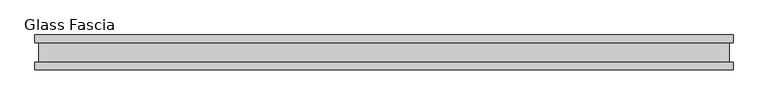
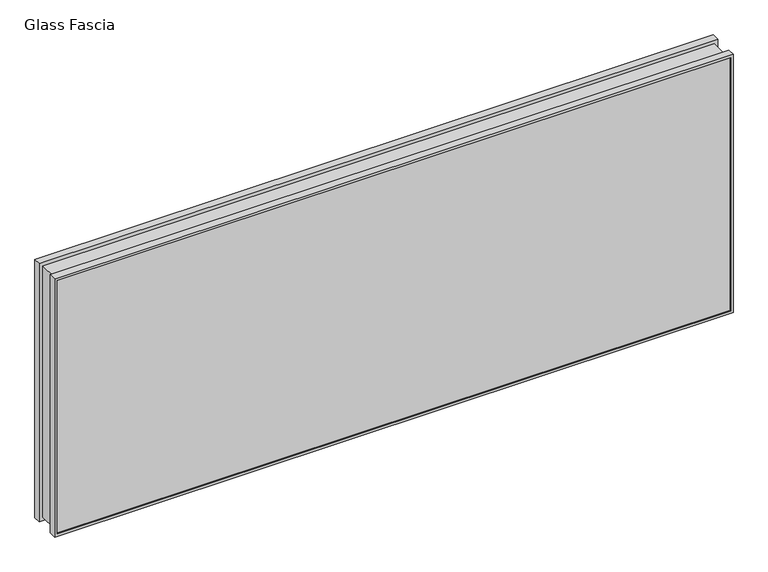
"""IFC4 building model written with IfcOpenShell, lengths in millimetres: proxy geometry, Panel-Fascia-Teknion-Altos-Glass : Glass Fascia."""

from ifc_helpers import new_model, si_unit, frame, origin, place, context, project, spatial, polyline, outline, extrude, faceted_brep, source, transform, mapped, element, save


def glass_fascia_e55c546c(model_context):
    return source(origin(), model_context, "Body", "SolidModel", [
        faceted_brep([(998.8721539, 50.0558594, 807.593), (998.8721539, 28.2698798, 807.593), (998.8721539, 28.2698798, 3.175), (998.8721539, 50.0558594, 3.175), (991.4369461, 47.1322551, 800.1577922), (991.4369461, 50.0558594, 800.1577922), (991.4369461, 50.0558594, 10.6102078), (991.4369461, 47.1322551, 10.6102078), (996.7196276, 41.1791301, 805.4404737), (996.7196276, 47.1322551, 805.4404737), (996.7196276, 47.1322551, 5.3275263), (996.7196276, 41.1791301, 5.3275263), (996.7196276, -46.8808594, 805.4404737), (996.7196276, -40.9277344, 805.4404737), (996.7196276, -40.9277344, 5.3275263), (996.7196276, -46.8808594, 5.3275263), (991.4369461, -50.0558594, 800.1577922), (991.4369461, -46.8808594, 800.1577922), (991.4369461, -46.8808594, 10.6102078), (991.4369461, -50.0558594, 10.6102078), (998.8721539, -28.8801202, 807.593), (998.8721539, -50.0558594, 807.593), (998.8721539, -50.0558594, 3.175), (998.8721539, -28.8801202, 3.175), (988.0203125, 28.2698798, 796.7411586), (988.0203125, -28.8801202, 796.7411586), (988.0203125, -28.8801202, 14.0268414), (988.0203125, 28.2698798, 14.0268414), (-998.8721539, 28.2698798, 3.175), (-998.8721539, 50.0558594, 3.175), (-991.4369461, 50.0558594, 10.6102078), (-991.4369461, 47.1322551, 10.6102078), (-996.7196276, 47.1322551, 5.3275263), (-996.7196276, 41.1791301, 5.3275263), (-996.7196276, -40.9277344, 5.3275263), (-996.7196276, -46.8808594, 5.3275263), (-991.4369461, -46.8808594, 10.6102078), (-991.4369461, -50.0558594, 10.6102078), (-998.8721539, -50.0558594, 3.175), (-998.8721539, -28.8801202, 3.175), (-988.0203125, -28.8801202, 14.0268414), (-988.0203125, 28.2698798, 14.0268414), (-998.8721539, 28.2698798, 807.593), (-998.8721539, 50.0558594, 807.593), (-991.4369461, 50.0558594, 800.1577922), (-991.4369461, 47.1322551, 800.1577922), (-996.7196276, 47.1322551, 805.4404737), (-996.7196276, 41.1791301, 805.4404737), (-996.7196276, -40.9277344, 805.4404737), (-996.7196276, -46.8808594, 805.4404737), (-991.4369461, -46.8808594, 800.1577922), (-991.4369461, -50.0558594, 800.1577922), (-998.8721539, -50.0558594, 807.593), (-998.8721539, -28.8801202, 807.593), (-988.0203125, -28.8801202, 796.7411586), (-988.0203125, 28.2698798, 796.7411586), (973.4092029, 41.1791301, 782.130049), (-973.4092029, 41.1791301, 782.130049), (-973.4092029, 41.1791301, 28.637951), (973.4092029, 41.1791301, 28.637951), (973.4092029, -40.9277344, 28.637951), (-973.4092029, -40.9277344, 28.637951), (-973.4092029, -40.9277344, 782.130049), (973.4092029, -40.9277344, 782.130049), (973.4092029, 4.7625, 782.130049), (973.4092029, 4.7625, 28.637951), (-973.4092029, 4.7625, 28.637951), (-973.4092029, 4.7625, 782.130049), (983.7279529, -4.7625, 792.448799), (983.7279529, 4.7625, 792.448799), (983.7279529, 4.7625, 18.319201), (983.7279529, -4.7625, 18.319201), (973.4092029, -4.7625, 782.130049), (973.4092029, -4.7625, 28.637951), (-983.7279529, 4.7625, 18.319201), (-983.7279529, -4.7625, 18.319201), (-973.4092029, -4.7625, 28.637951), (-983.7279529, 4.7625, 792.448799), (-983.7279529, -4.7625, 792.448799), (-973.4092029, -4.7625, 782.130049)], [[[0, 1, 2, 3]], [[4, 5, 6, 7]], [[8, 9, 10, 11]], [[12, 13, 14, 15]], [[16, 17, 18, 19]], [[20, 21, 22, 23]], [[24, 25, 26, 27]], [[3, 2, 28, 29]], [[7, 6, 30, 31]], [[11, 10, 32, 33]], [[15, 14, 34, 35]], [[19, 18, 36, 37]], [[23, 22, 38, 39]], [[27, 26, 40, 41]], [[29, 28, 42, 43]], [[31, 30, 44, 45]], [[33, 32, 46, 47]], [[35, 34, 48, 49]], [[37, 36, 50, 51]], [[39, 38, 52, 53]], [[41, 40, 54, 55]], [[43, 42, 1, 0]], [[3, 29, 43, 0], [5, 44, 30, 6]], [[45, 44, 5, 4]], [[9, 46, 32, 10], [7, 31, 45, 4]], [[47, 46, 9, 8]], [[11, 33, 47, 8], [56, 57, 58, 59]], [[13, 48, 34, 14], [60, 61, 62, 63]], [[49, 48, 13, 12]], [[15, 35, 49, 12], [17, 50, 36, 18]], [[51, 50, 17, 16]], [[21, 52, 38, 22], [19, 37, 51, 16]], [[53, 52, 21, 20]], [[23, 39, 53, 20], [25, 54, 40, 26]], [[55, 54, 25, 24]], [[1, 42, 28, 2], [27, 41, 55, 24]], [[64, 56, 59, 65]], [[65, 59, 58, 66]], [[66, 58, 57, 67]], [[67, 57, 56, 64]], [[68, 69, 70, 71]], [[63, 72, 73, 60]], [[71, 70, 74, 75]], [[60, 73, 76, 61]], [[75, 74, 77, 78]], [[61, 76, 79, 62]], [[69, 77, 74, 70], [65, 66, 67, 64]], [[78, 77, 69, 68]], [[62, 79, 72, 63]], [[71, 75, 78, 68], [72, 79, 76, 73]]]),
        extrude(outline(polyline([(996.7196276, -40.9277344), (996.7196276, -46.8808594), (-996.7196276, -46.8808594), (-996.7196276, -40.9277344), (996.7196276, -40.9277344)])), frame((0.0, 0.0, 5.3275263), z_axis=(0.0, 0.0, 1.0), x_axis=(1.0, 0.0, 0.0)), (0.0, 0.0, 1.0), 799.618928),
        extrude(outline(polyline([(996.7196276, 41.1791301), (-996.7196276, 41.1791301), (-996.7196276, 47.1322551), (996.7196276, 47.1322551), (996.7196276, 41.1791301)])), frame((0.0, 0.0, 5.3275263), z_axis=(0.0, 0.0, 1.0), x_axis=(1.0, 0.0, 0.0)), (0.0, 0.0, 1.0), 799.618928),
    ])


if __name__ == "__main__":
    model = new_model("IFC4")
    model_context = context("Model", 3, world=origin())
    ifc_project = project(units=[si_unit("LENGTHUNIT", "METRE", prefix="MILLI")], contexts=[model_context])
    site = spatial("IfcSite", under=ifc_project)
    building = spatial("IfcBuilding", under=site)
    placement = place(None, origin())
    glass_fascia_shape = glass_fascia_e55c546c(model_context)
    element("IfcBuildingElementProxy", 1, Name="Panel-Fascia-Teknion-Altos-Glass : Glass Fascia", ObjectType="Panel-Fascia-Teknion-Altos-Glass : Glass Fascia", at=placement, inside=building, context=model_context, shape_type="MappedRepresentation", body=[
        mapped(glass_fascia_shape, transform((0.0, 0.0, 0.0), x_axis=(1.0, 0.0, 0.0), y_axis=(0.0, 1.0, 0.0), z_axis=(0.0, 0.0, 1.0))),
    ])
    save(model, "model.ifc")
